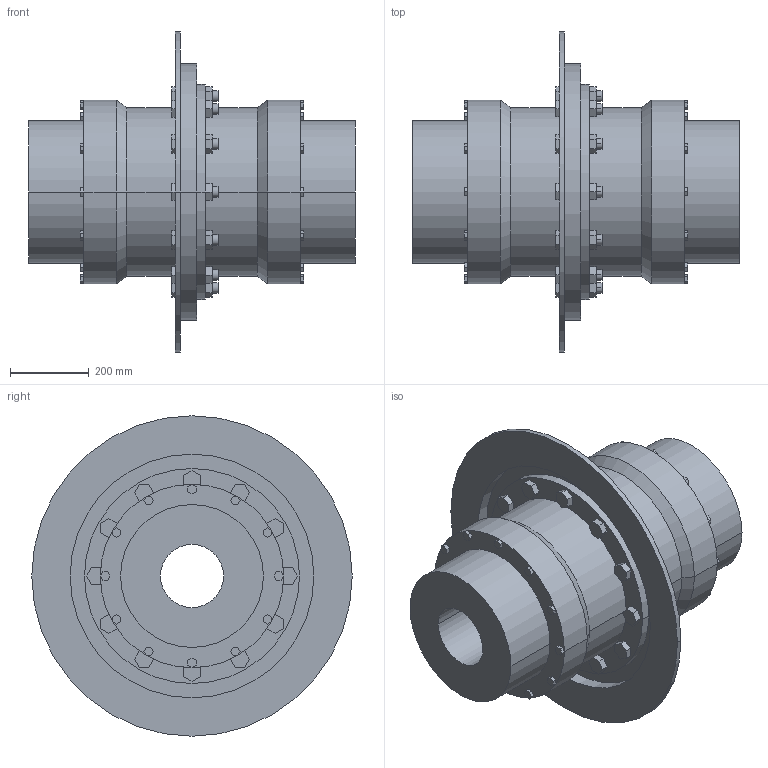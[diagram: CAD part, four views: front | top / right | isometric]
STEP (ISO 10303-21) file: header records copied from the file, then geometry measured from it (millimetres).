
FILE_DESCRIPTION((''),'2;1');
FILE_NAME('A19728000-0_ASM','2019-05-23T',('AB_Roschiwal'),('RENK AG'),'PRO/ENGINEER BY PARAMETRIC TECHNOLOGY CORPORATION, 2015440','PRO/ENGINEER BY PARAMETRIC TECHNOLOGY CORPORATION, 2015440','');
FILE_SCHEMA(('CONFIG_CONTROL_DESIGN'));
Length unit declared in the file: millimetre
Products named in the file (4): SBKT225_GEHAEUSE; SBKT225_NABE; SBKT225_BREMSSCHEIBE; A19728000-0_ASM
Assembly tree (4 placements, depth 2):
  A19728000-0_ASM
    SBKT225_GEHAEUSE
    SBKT225_NABE  x2
    SBKT225_BREMSSCHEIBE
Bounding box: 828 x 812 x 812 mm (x, y, z)
Volume: 80493953.6 mm3; surface area: 4345458 mm2
Topology: 4 solids, 4 shells, 470 faces, 1156 edges, 768 vertices
Faces by surface type: plane 370, cylinder 96, cone 4
Entity records: 13604 total; most frequent: CARTESIAN_POINT 2350, ORIENTED_EDGE 2264, DIRECTION 2240, EDGE_CURVE 1132, VECTOR 956, LINE 956, VERTEX_POINT 752, AXIS2_PLACEMENT_3D 642
